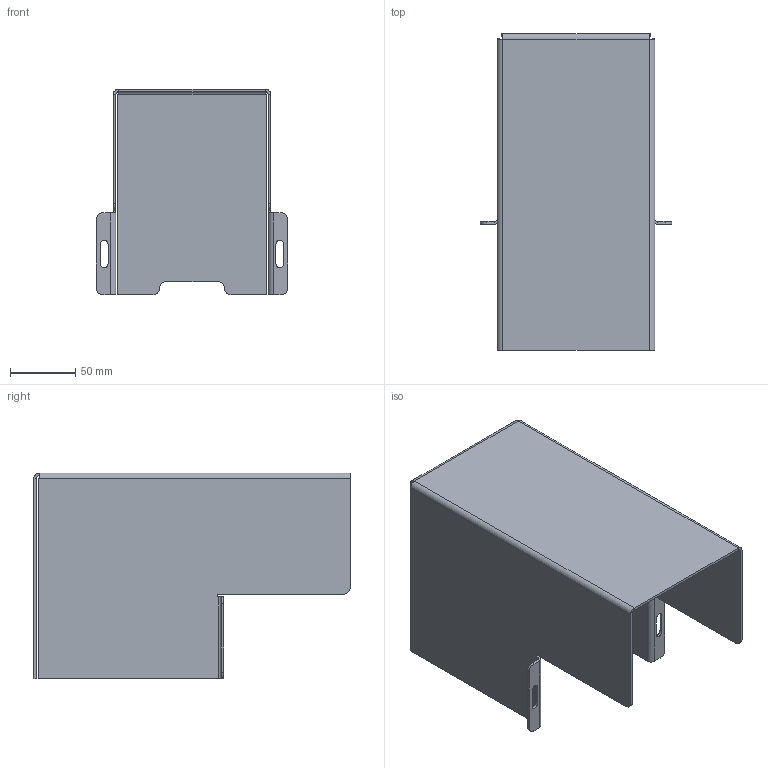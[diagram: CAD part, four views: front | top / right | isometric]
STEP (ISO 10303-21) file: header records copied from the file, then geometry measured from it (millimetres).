
FILE_DESCRIPTION(/* description */ (''),/* implementation_level */ '2;1');
FILE_NAME(/* name */ 'GX4 Rear Cover.step',/* time_stamp */ '2026-05-09T15:28:07-07:00',/* author */ (''),/* organization */ (''),/* preprocessor_version */ 'ST-DEVELOPER v20.1',/* originating_system */ 'Autodesk Translation Framework v15.8.0.0',/* authorisation */ '');
FILE_SCHEMA (('AUTOMOTIVE_DESIGN { 1 0 10303 214 3 1 1 }'));
Length unit declared in the file: millimetre
Products named in the file (1): GX4 Rear Cover
Bounding box: 147 x 243.05 x 158 mm (x, y, z)
Volume: 223851.5 mm3; surface area: 222131.2 mm2
Topology: 1 solids, 1 shells, 78 faces, 188 edges, 112 vertices
Faces by surface type: plane 54, cylinder 24
Entity records: 2261 total; most frequent: DIRECTION 394, CARTESIAN_POINT 379, ORIENTED_EDGE 376, EDGE_CURVE 188, LINE 140, VECTOR 140, AXIS2_PLACEMENT_3D 127, VERTEX_POINT 112
